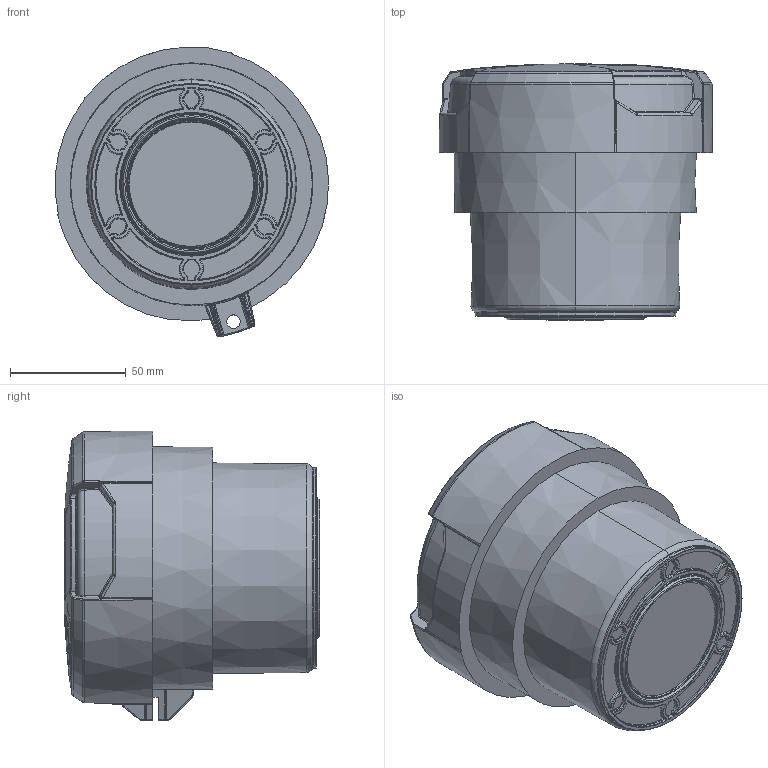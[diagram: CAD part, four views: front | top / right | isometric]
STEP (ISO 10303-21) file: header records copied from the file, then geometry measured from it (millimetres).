
FILE_DESCRIPTION((''),'2;1');
FILE_NAME('1000417939','2023-07-17T',('v.pichlmaier'),(''),'PRO/ENGINEER BY PARAMETRIC TECHNOLOGY CORPORATION, 2015110','PRO/ENGINEER BY PARAMETRIC TECHNOLOGY CORPORATION, 2015110','');
FILE_SCHEMA(('AUTOMOTIVE_DESIGN { 1 0 10303 214 1 1 1 1 }'));
Length unit declared in the file: millimetre
Products named in the file (1): 1000417939
Bounding box: 117.86 x 110.37 x 125.01 mm (x, y, z)
Volume: 887509.4 mm3; surface area: 64055.8 mm2
Topology: 1 solids, 1 shells, 1612 faces, 3930 edges, 2319 vertices
Faces by surface type: bspline 798, torus 217, plane 212, cone 160, cylinder 159, sphere 66
Entity records: 97130 total; most frequent: CARTESIAN_POINT 52899, ORIENTED_EDGE 7856, DIRECTION 5278, PRESENTATION_STYLE_ASSIGNMENT 3929, STYLED_ITEM 3929, CURVE_STYLE 3928, EDGE_CURVE 3928, VERTEX_POINT 2319
